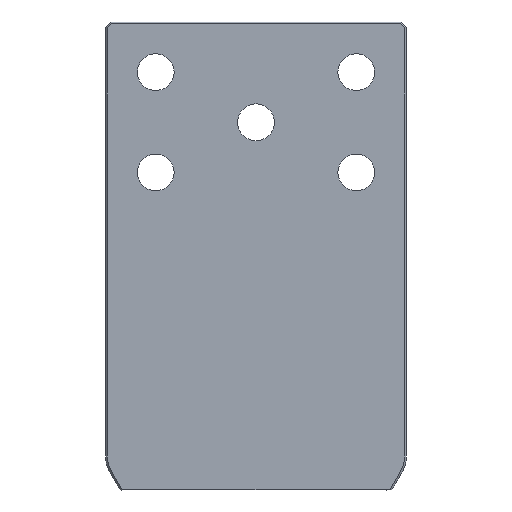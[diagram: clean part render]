
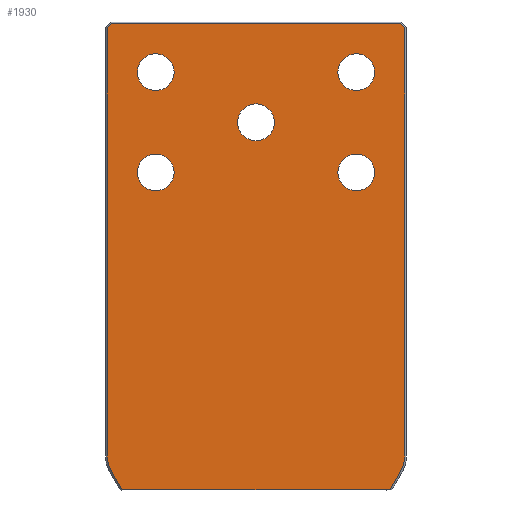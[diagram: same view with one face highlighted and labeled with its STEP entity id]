
A CAD part, front view. The second image highlights one B-rep face of the part: STEP entity #1930.
In plain terms, the highlighted planar face has unit normal (0, -1, 0).
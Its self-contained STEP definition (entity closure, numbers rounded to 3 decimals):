
#135=VERTEX_POINT(' ',#136);
#136=CARTESIAN_POINT('',(60.,-55.,-101.));
#137=VERTEX_POINT(' ',#138);
#138=CARTESIAN_POINT('',(60.,-55.,-79.));
#143=VERTEX_POINT(' ',#144);
#144=CARTESIAN_POINT('',(-60.,-55.,-41.));
#145=VERTEX_POINT(' ',#146);
#146=CARTESIAN_POINT('',(-60.,-55.,-19.));
#151=VERTEX_POINT(' ',#152);
#152=CARTESIAN_POINT('',(60.,-55.,-41.));
#153=VERTEX_POINT(' ',#154);
#154=CARTESIAN_POINT('',(60.,-55.,-19.));
#159=VERTEX_POINT(' ',#160);
#160=CARTESIAN_POINT('',(-60.,-55.,-101.));
#161=VERTEX_POINT(' ',#162);
#162=CARTESIAN_POINT('',(-60.,-55.,-79.));
#167=VERTEX_POINT(' ',#168);
#168=CARTESIAN_POINT('',(0.,-55.,-71.));
#169=VERTEX_POINT(' ',#170);
#170=CARTESIAN_POINT('',(0.,-55.,-49.));
#253=VERTEX_POINT(' ',#254);
#254=CARTESIAN_POINT('',(80.185,-55.,-280.));
#255=VERTEX_POINT(' ',#256);
#256=CARTESIAN_POINT('',(86.454,-55.,-269.141));
#257=VERTEX_POINT(' ',#258);
#258=CARTESIAN_POINT('',(89.,-55.,-259.641));
#259=VERTEX_POINT(' ',#260);
#260=CARTESIAN_POINT('',(89.,-55.,-120.));
#261=VERTEX_POINT(' ',#262);
#262=CARTESIAN_POINT('',(89.,-55.,-3.414));
#265=VERTEX_POINT(' ',#266);
#266=CARTESIAN_POINT('',(86.586,-55.,-1.));
#269=VERTEX_POINT(' ',#270);
#270=CARTESIAN_POINT('',(-86.586,-55.,-1.));
#273=VERTEX_POINT(' ',#274);
#274=CARTESIAN_POINT('',(-89.,-55.,-3.414));
#283=VERTEX_POINT(' ',#284);
#284=CARTESIAN_POINT('',(-80.185,-55.,-280.));
#285=VERTEX_POINT(' ',#286);
#286=CARTESIAN_POINT('',(-89.,-55.,-120.));
#287=VERTEX_POINT(' ',#288);
#288=CARTESIAN_POINT('',(-89.,-55.,-259.641));
#289=VERTEX_POINT(' ',#290);
#290=CARTESIAN_POINT('',(-86.454,-55.,-269.141));
#291=CIRCLE('',#292,11.);
#292=AXIS2_PLACEMENT_3D('',#293,#294,#295);
#293=CARTESIAN_POINT('',(60.,-55.,-90.));
#294=DIRECTION('',(0.,-1.,0.));
#295=DIRECTION('',(-1.,0.,0.));
#296=EDGE_CURVE(' ',#135,#137,#291,.T.);
#313=CIRCLE('',#314,11.);
#314=AXIS2_PLACEMENT_3D('',#315,#316,#317);
#315=CARTESIAN_POINT('',(60.,-55.,-90.));
#316=DIRECTION('',(0.,-1.,0.));
#317=DIRECTION('',(1.,0.,0.));
#318=EDGE_CURVE(' ',#137,#135,#313,.T.);
#325=CIRCLE('',#326,11.);
#326=AXIS2_PLACEMENT_3D('',#327,#328,#329);
#327=CARTESIAN_POINT('',(-60.,-55.,-30.));
#328=DIRECTION('',(0.,-1.,0.));
#329=DIRECTION('',(-1.,0.,0.));
#330=EDGE_CURVE(' ',#143,#145,#325,.T.);
#347=CIRCLE('',#348,11.);
#348=AXIS2_PLACEMENT_3D('',#349,#350,#351);
#349=CARTESIAN_POINT('',(-60.,-55.,-30.));
#350=DIRECTION('',(0.,-1.,0.));
#351=DIRECTION('',(1.,0.,0.));
#352=EDGE_CURVE(' ',#145,#143,#347,.T.);
#359=CIRCLE('',#360,11.);
#360=AXIS2_PLACEMENT_3D('',#361,#362,#363);
#361=CARTESIAN_POINT('',(60.,-55.,-30.));
#362=DIRECTION('',(0.,1.,0.));
#363=DIRECTION('',(-1.,0.,0.));
#364=EDGE_CURVE(' ',#151,#153,#359,.F.);
#381=CIRCLE('',#382,11.);
#382=AXIS2_PLACEMENT_3D('',#383,#384,#385);
#383=CARTESIAN_POINT('',(60.,-55.,-30.));
#384=DIRECTION('',(0.,1.,0.));
#385=DIRECTION('',(1.,0.,0.));
#386=EDGE_CURVE(' ',#153,#151,#381,.F.);
#393=CIRCLE('',#394,11.);
#394=AXIS2_PLACEMENT_3D('',#395,#396,#397);
#395=CARTESIAN_POINT('',(-60.,-55.,-90.));
#396=DIRECTION('',(0.,1.,0.));
#397=DIRECTION('',(-1.,0.,0.));
#398=EDGE_CURVE(' ',#159,#161,#393,.F.);
#415=CIRCLE('',#416,11.);
#416=AXIS2_PLACEMENT_3D('',#417,#418,#419);
#417=CARTESIAN_POINT('',(-60.,-55.,-90.));
#418=DIRECTION('',(0.,1.,0.));
#419=DIRECTION('',(1.,0.,0.));
#420=EDGE_CURVE(' ',#161,#159,#415,.F.);
#427=CIRCLE('',#428,11.);
#428=AXIS2_PLACEMENT_3D('',#429,#430,#431);
#429=CARTESIAN_POINT('',(0.,-55.,-60.));
#430=DIRECTION('',(0.,1.,0.));
#431=DIRECTION('',(-1.,0.,0.));
#432=EDGE_CURVE(' ',#167,#169,#427,.F.);
#449=CIRCLE('',#450,11.);
#450=AXIS2_PLACEMENT_3D('',#451,#452,#453);
#451=CARTESIAN_POINT('',(0.,-55.,-60.));
#452=DIRECTION('',(0.,1.,0.));
#453=DIRECTION('',(1.,0.,0.));
#454=EDGE_CURVE(' ',#169,#167,#449,.F.);
#846=LINE('',#847,#848);
#847=CARTESIAN_POINT('',(86.454,-55.,-269.141));
#848=VECTOR('',#849,1.);
#849=DIRECTION('',(-0.5,0.,-0.866));
#850=EDGE_CURVE(' ',#255,#253,#846,.T.);
#856=CIRCLE('',#857,19.);
#857=AXIS2_PLACEMENT_3D('',#858,#859,#860);
#858=CARTESIAN_POINT('',(70.,-55.,-259.641));
#859=DIRECTION('',(0.,1.,0.));
#860=DIRECTION('',(-0.966,0.,0.259));
#861=EDGE_CURVE(' ',#257,#255,#856,.T.);
#867=LINE('',#868,#869);
#868=CARTESIAN_POINT('',(89.,-55.,-120.));
#869=VECTOR('',#870,1.);
#870=DIRECTION('',(0.,0.,-1.));
#871=EDGE_CURVE(' ',#259,#257,#867,.T.);
#877=LINE('',#878,#879);
#878=CARTESIAN_POINT('',(89.,-55.,2.657));
#879=VECTOR('',#880,1.);
#880=DIRECTION('',(0.,0.,-1.));
#881=EDGE_CURVE(' ',#261,#259,#877,.T.);
#897=LINE('',#898,#899);
#898=CARTESIAN_POINT('',(82.293,-55.,3.293));
#899=VECTOR('',#900,1.);
#900=DIRECTION('',(0.707,0.,-0.707));
#901=EDGE_CURVE(' ',#265,#261,#897,.T.);
#917=LINE('',#918,#919);
#918=CARTESIAN_POINT('',(-92.657,-55.,-1.));
#919=VECTOR('',#920,1.);
#920=DIRECTION('',(1.,0.,0.));
#921=EDGE_CURVE(' ',#269,#265,#917,.T.);
#937=LINE('',#938,#939);
#938=CARTESIAN_POINT('',(-93.293,-55.,-7.707));
#939=VECTOR('',#940,1.);
#940=DIRECTION('',(0.707,0.,0.707));
#941=EDGE_CURVE(' ',#273,#269,#937,.T.);
#988=LINE('',#989,#990);
#989=CARTESIAN_POINT('',(-90.12,-55.,-280.));
#990=VECTOR('',#991,1.);
#991=DIRECTION('',(1.,0.,0.));
#992=EDGE_CURVE(' ',#253,#283,#988,.F.);
#993=LINE('',#994,#995);
#994=CARTESIAN_POINT('',(-89.,-55.,-120.));
#995=VECTOR('',#996,1.);
#996=DIRECTION('',(0.,0.,1.));
#997=EDGE_CURVE(' ',#285,#273,#993,.T.);
#998=LINE('',#999,#1000);
#999=CARTESIAN_POINT('',(-89.,-55.,-259.641));
#1000=VECTOR('',#1001,1.);
#1001=DIRECTION('',(0.,0.,1.));
#1002=EDGE_CURVE(' ',#287,#285,#998,.T.);
#1003=CIRCLE('',#1004,19.);
#1004=AXIS2_PLACEMENT_3D('',#1005,#1006,#1007);
#1005=CARTESIAN_POINT('',(-70.,-55.,-259.641));
#1006=DIRECTION('',(0.,1.,0.));
#1007=DIRECTION('',(0.966,0.,0.259));
#1008=EDGE_CURVE(' ',#289,#287,#1003,.T.);
#1009=LINE('',#1010,#1011);
#1010=CARTESIAN_POINT('',(-77.645,-55.,-284.399));
#1011=VECTOR('',#1012,1.);
#1012=DIRECTION('',(-0.5,0.,0.866));
#1013=EDGE_CURVE(' ',#283,#289,#1009,.T.);
#1891=ORIENTED_EDGE('',*,*,#997,.F.);
#1892=ORIENTED_EDGE('',*,*,#1002,.F.);
#1893=ORIENTED_EDGE('',*,*,#1008,.F.);
#1894=ORIENTED_EDGE('',*,*,#1013,.F.);
#1895=ORIENTED_EDGE('',*,*,#992,.F.);
#1896=ORIENTED_EDGE('',*,*,#850,.F.);
#1897=ORIENTED_EDGE('',*,*,#861,.F.);
#1898=ORIENTED_EDGE('',*,*,#871,.F.);
#1899=ORIENTED_EDGE('',*,*,#881,.F.);
#1900=ORIENTED_EDGE('',*,*,#901,.F.);
#1901=ORIENTED_EDGE('',*,*,#921,.F.);
#1902=ORIENTED_EDGE('',*,*,#941,.F.);
#1903=EDGE_LOOP('',(#1891,#1892,#1893,#1894,#1895,#1896,#1897,#1898,#1899,#1900,#1901,#1902));
#1904=FACE_OUTER_BOUND('',#1903,.T.);
#1905=ORIENTED_EDGE('',*,*,#454,.F.);
#1906=ORIENTED_EDGE('',*,*,#432,.F.);
#1907=EDGE_LOOP('',(#1905,#1906));
#1908=FACE_BOUND('',#1907,.T.);
#1909=ORIENTED_EDGE('',*,*,#420,.F.);
#1910=ORIENTED_EDGE('',*,*,#398,.F.);
#1911=EDGE_LOOP('',(#1909,#1910));
#1912=FACE_BOUND('',#1911,.T.);
#1913=ORIENTED_EDGE('',*,*,#386,.F.);
#1914=ORIENTED_EDGE('',*,*,#364,.F.);
#1915=EDGE_LOOP('',(#1913,#1914));
#1916=FACE_BOUND('',#1915,.T.);
#1917=ORIENTED_EDGE('',*,*,#352,.F.);
#1918=ORIENTED_EDGE('',*,*,#330,.F.);
#1919=EDGE_LOOP('',(#1917,#1918));
#1920=FACE_BOUND('',#1919,.T.);
#1921=ORIENTED_EDGE('',*,*,#318,.F.);
#1922=ORIENTED_EDGE('',*,*,#296,.F.);
#1923=EDGE_LOOP('',(#1921,#1922));
#1924=FACE_BOUND('',#1923,.T.);
#1925=PLANE('',#1926);
#1926=AXIS2_PLACEMENT_3D('',#1927,#1928,#1929);
#1927=CARTESIAN_POINT('',(0.,-55.,0.));
#1928=DIRECTION('',(0.,-1.,0.));
#1929=DIRECTION('',(0.,0.,-1.));
#1930=ADVANCED_FACE('',(#1904,#1908,#1912,#1916,#1920,#1924),#1925,.T.);
